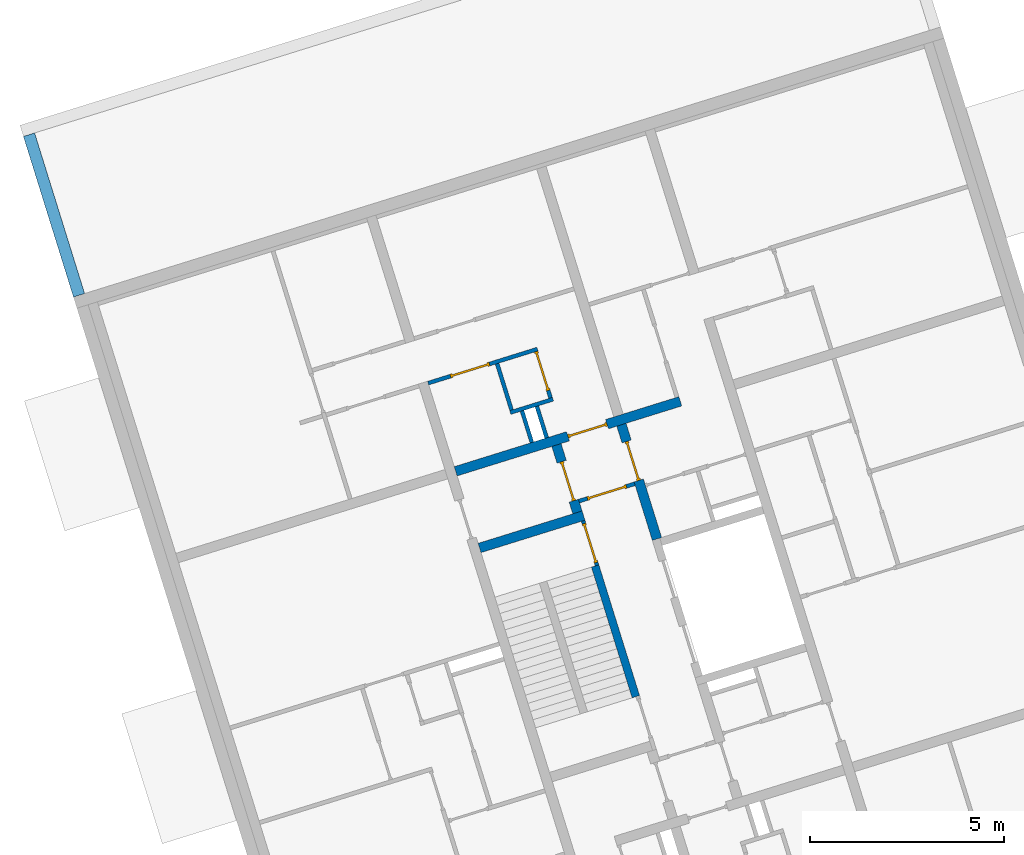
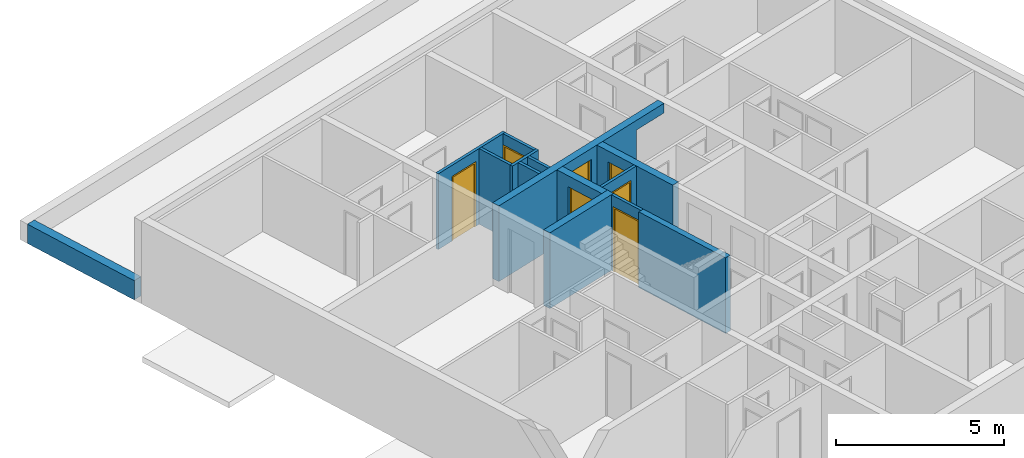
# One storey, part 5 of 9: 14 walls, 7 doors, 9 openings.
"""IFC4 building model written with IfcOpenShell, lengths in metres."""

from ifc_helpers import new_model, entity, si_unit, converted_unit, direction, frame, origin, place, context, subcontext, project, spatial, indexed_curve, outline, extrude, polygons, source, transform, mapped, material, constituent, constituent_set, type_object, type_shapes, element, fill, save


model = new_model("IFC4")

# Units and contexts
model_context = context("Model", 3, precision=1e-05, world=origin(), true_north=direction((6.12323399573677e-17, 1.0)))
body_context = subcontext(model_context, "Body", "Model", "MODEL_VIEW")
ifc_project = project(units=[si_unit("LENGTHUNIT", "METRE"), si_unit("AREAUNIT", "SQUARE_METRE"), converted_unit("PLANEANGLEUNIT", "DEGREE", entity("IfcPlaneAngleMeasure", 0.0174532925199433), si_unit("PLANEANGLEUNIT", "RADIAN"), dimensions=[0, 0, 0, 0, 0, 0, 0]), si_unit("VOLUMEUNIT", "CUBIC_METRE")], contexts=[model_context])

# Site, building, storey
site_placement = place(None, frame((13.1347999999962, 11.9886000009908, 0.0), z_axis=(0.0, 0.0, 1.0), x_axis=(0.954770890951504, 0.297342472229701, 0.0)))
site = spatial("IfcSite", under=ifc_project, at=site_placement, Name="Schiehaven", CompositionType="ELEMENT")
building_placement = place(site_placement, origin())
building = spatial("IfcBuilding", under=site, at=building_placement, Name="VORM huis", CompositionType="ELEMENT")
storey_placement = place(building_placement, frame((0.0, 0.0, 6.9)))
storey = spatial("IfcBuildingStorey", under=building, at=storey_placement, Name="02 tweede verdieping", CompositionType="ELEMENT", Elevation=6.9)

# Wall, openings, door
ifc_material_1 = material(Name="beton_gewapend_ihw", Category="Miscellaneous")
wall_type_1 = type_object("IfcWallType", Name="Basic Wall:28_WA_skelet_wand 250mm_gen", PredefinedType="STANDARD")
wall_1_placement = place(storey_placement, frame((72.3749999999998, 22.1999999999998, 0.0), z_axis=(0.0, 0.0, 1.0), x_axis=(-1.0, 0.0, 0.0)))
wall_1 = element("IfcWall", 1, at=wall_1_placement, inside=storey, type_object=wall_type_1, material=ifc_material_1, Name="Constructieve wand", ObjectType="Wand", PredefinedType="NOTDEFINED", context=body_context, shape_type="Tessellation", body=[
    polygons([(4.225, -0.124999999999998, 2.34999999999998), (4.225, -0.124999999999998, 1.08286712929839e-15), (7.25000000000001, -0.124999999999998, 1.08286712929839e-15), (7.25000000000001, -0.124999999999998, 2.75), (9.99819487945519e-15, -0.124999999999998, 2.75), (9.99819487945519e-15, -0.124999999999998, 2.4), (1.2, -0.124999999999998, 2.4), (1.2, -0.124999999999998, 1.08286712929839e-15), (3.175, -0.124999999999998, 1.08286712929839e-15), (3.175, -0.124999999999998, 2.34999999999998), (7.25000000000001, 0.125000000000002, 1.08286712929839e-15), (4.22500000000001, 0.125000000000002, 1.08286712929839e-15), (4.22500000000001, 0.125000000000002, 2.34999999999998), (3.175, 0.125000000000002, 2.34999999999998), (3.175, 0.125000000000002, 1.08286712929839e-15), (1.2, 0.125000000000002, 1.08286712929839e-15), (1.2, 0.125000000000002, 2.4), (1.32815610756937e-14, 0.125000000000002, 2.4), (1.32815610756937e-14, 0.125000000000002, 2.75), (7.25, 0.125000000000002, 2.75)], [[[1, 2, 3, 4, 5, 6, 7, 8, 9, 10]], [[11, 12, 13, 14, 15, 16, 17, 18, 19, 20]], [[9, 8, 16, 15]], [[5, 4, 20, 19]], [[5, 19, 18, 6]], [[15, 14, 10, 9]], [[13, 12, 2, 1]], [[14, 13, 1, 10]], [[7, 17, 16, 8]], [[17, 7, 6, 18]], [[4, 3, 11, 20]], [[3, 2, 12, 11]]], closed=True),
])
opening_1_placement = place(wall_1_placement, origin())
element("IfcOpeningElement", 2, at=opening_1_placement, cuts=wall_1, Name="Constructieve wand", PredefinedType="OPENING", context=body_context, shape_type="SweptSolid", body=[
    extrude(outline(indexed_curve([(-1.2, -0.600000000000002), (1.2, -0.600000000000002), (1.2, 0.600000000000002), (-1.2, 0.600000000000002), (-1.2, -0.600000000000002)], self_intersect=False)), frame((0.599999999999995, -0.124999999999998, 1.2), z_axis=(0.0, 1.0, 0.0), x_axis=(0.0, 0.0, -1.0)), (0.0, 0.0, 1.0), 0.250000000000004),
])
opening_2_placement = place(wall_1_placement, frame((3.175, -0.124999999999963, 0.0)))
opening_2 = element("IfcOpeningElement", 3, at=opening_2_placement, cuts=wall_1, Name="Woningtoegangsdeur", PredefinedType="OPENING", context=body_context, shape_type="SweptSolid", body=[
    extrude(outline(indexed_curve([(2.34999999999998, 2.2221558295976e-31), (2.34999999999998, 1.05), (0.0, 1.05), (0.0, 2.2221558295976e-31), (2.34999999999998, 2.2221558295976e-31)], self_intersect=False)), frame((0.0, 0.0, 0.0), z_axis=(0.0, 1.0, 0.0), x_axis=(0.0, 0.0, 1.0)), (0.0, 0.0, 1.0), 0.25),
])
ifc_material_2 = material(Name="PD_a_binnenwandopeningen", Category="Miscellaneous")
ifc_constituent_1 = constituent(ifc_material_2, Name="PD_a_binnenwandopeningen", Category="Miscellaneous")
ifc_material_3 = material(Name="metaal_aluminium_ntb", Category="Miscellaneous")
ifc_constituent_2 = constituent(ifc_material_3, Name="metaal_aluminium_ntb", Category="Miscellaneous")
ifc_constituent_set_1 = constituent_set(constituents=[ifc_constituent_1, ifc_constituent_2])
ifc_constituent_3 = constituent(ifc_material_2, Name="PD_a_binnenwandopeningen", Category="Miscellaneous")
ifc_constituent_4 = constituent(ifc_material_3, Name="Panel", Category="Miscellaneous")
ifc_constituent_set_2 = constituent_set(constituents=[ifc_constituent_3, ifc_constituent_4])
door_type_1 = type_object("IfcDoorType", Name="32_DO_binnendeur enkel:woningtoegangsdeur", OperationType="REVOLVING", PredefinedType="DOOR", material=ifc_constituent_set_2)
shared_shape_1 = source(origin(), body_context, "Body", "SweptSolid", [
    extrude(outline(indexed_curve([(0.475, -1.16249999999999), (0.525000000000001, -1.16249999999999), (0.525000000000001, 1.18749999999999), (-0.525000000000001, 1.18749999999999), (-0.525000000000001, -1.16249999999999), (-0.475, -1.16249999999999), (-0.475, 1.13749999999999), (0.475, 1.13749999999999), (0.475, -1.16249999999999)], self_intersect=False)), frame((0.525000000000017, 0.174999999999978, 1.16249999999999), z_axis=(0.0, -1.0, 0.0), x_axis=(1.0, 0.0, 0.0)), (0.0, 0.0, 1.0), 0.1),
    extrude(outline(indexed_curve([(-0.475, -0.025), (0.475, -0.025), (0.475, 0.025), (-0.475, 0.025), (-0.475, -0.025)], self_intersect=False)), frame((0.525000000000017, 0.12499999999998, 0.0)), (0.0, 0.0, 1.0), 2.29999999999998),
])
type_shapes(door_type_1, [shared_shape_1])
door_1_placement = place(opening_2_placement, origin())
door_1 = element("IfcDoor", 4, at=door_1_placement, inside=storey, type_object=door_type_1, material=ifc_constituent_set_1, Name="Woningtoegangsdeur", ObjectType="Deur", OperationType="REVOLVING", OverallHeight=2.34999999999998, OverallWidth=1.05, PredefinedType="DOOR", context=body_context, shape_type="MappedRepresentation", body=[
    mapped(shared_shape_1, transform((0.0, 0.0, 0.0), scale=1.0)),
])
fill(opening_2, door_1)

# Walls
ifc_material_4 = material(Name="ntb_ntb_ntb", Category="Miscellaneous")
wall_type_2 = type_object("IfcWallType", Name="Basic Wall: 300mm_gen", PredefinedType="STANDARD")
wall_2_placement = place(storey_placement, frame((57.2250000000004, 29.4000000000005, 0.0), z_axis=(0.0, 0.0, 1.0), x_axis=(0.0, 1.0, 0.0)))
element("IfcWall", 5, at=wall_2_placement, inside=storey, type_object=wall_type_2, material=ifc_material_4, Name="Gevelwand", ObjectType="Wand", PredefinedType="NOTDEFINED", context=body_context, shape_type="SweptSolid", body=[
    extrude(outline(indexed_curve([(4.32500000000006, 0.149999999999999), (1.85175273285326e-15, 0.150000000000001), (-1.85175273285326e-15, -0.150000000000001), (4.32500000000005, -0.150000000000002), (4.32500000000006, 0.149999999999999)], self_intersect=False)), origin(), (0.0, 0.0, 1.0), 0.700000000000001),
])
ifc_material_5 = material(Name="beton_gewapend_prefab-element", Category="Miscellaneous")
wall_type_3 = type_object("IfcWallType", Name="Basic Wall:28_WA_skelet_wand 200mm_gen", PredefinedType="STANDARD")
wall_3_placement = place(storey_placement, frame((67.8250000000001, 15.2899999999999, 0.0), z_axis=(0.0, 0.0, 1.0), x_axis=(0.0, 1.0, 0.0)))
element("IfcWall", 6, at=wall_3_placement, inside=storey, type_object=wall_type_3, material=ifc_material_5, Name="Constructieve wand", ObjectType="Wand", PredefinedType="NOTDEFINED", context=body_context, shape_type="SweptSolid", body=[
    extrude(outline(indexed_curve([(3.52, 0.100000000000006), (1.54310621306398e-16, 0.100000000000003), (-1.54310621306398e-16, -0.100000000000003), (3.52, -0.1), (3.52, 0.100000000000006)], self_intersect=False)), origin(), (0.0, 0.0, 1.0), 2.75),
])
wall_type_4 = type_object("IfcWallType", Name="Basic Wall:22_WA_afbouw_binnenwand 250mm_gen", PredefinedType="STANDARD")
wall_4_placement = place(storey_placement, frame((65.1249999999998, 20.1349999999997, 0.0)))
element("IfcWall", 7, at=wall_4_placement, inside=storey, type_object=wall_type_4, material=ifc_material_4, Name="Binnenwand", ObjectType="Wand", PredefinedType="NOTDEFINED", context=body_context, shape_type="SweptSolid", body=[
    extrude(outline(indexed_curve([(2.80000000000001, 0.124999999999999), (1.66486711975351e-15, 0.125000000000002), (-1.66486711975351e-15, -0.125000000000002), (2.80000000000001, -0.125000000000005), (2.80000000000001, 0.124999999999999)], self_intersect=False)), origin(), (0.0, 0.0, 1.0), 2.75),
])

# Wall, opening, door
wall_5_placement = place(storey_placement, frame((67.7999999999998, 20.2599999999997, 0.0), z_axis=(0.0, 0.0, 1.0), x_axis=(0.0, 1.0, 0.0)))
wall_5 = element("IfcWall", 8, at=wall_5_placement, inside=storey, type_object=wall_type_4, material=ifc_material_4, Name="Binnenwand", ObjectType="Wand", PredefinedType="NOTDEFINED", context=body_context, shape_type="Tessellation", body=[
    polygons([(4.33146851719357e-15, -0.125000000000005, 1.08286712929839e-15), (0.215000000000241, -0.125, 0.0), (0.31500000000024, -0.125000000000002, 1.08286712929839e-15), (0.31500000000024, -0.125000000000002, 2.34999999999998), (1.36500000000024, -0.124999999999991, 2.34999999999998), (1.36500000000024, -0.124999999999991, 1.08286712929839e-15), (1.81500000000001, -0.124999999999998, 1.08286712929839e-15), (1.81500000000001, -0.124999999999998, 2.75), (0.31500000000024, -0.125000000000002, 2.75), (0.215000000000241, -0.125, 2.75), (4.33146851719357e-15, -0.125000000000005, 2.75), (0.31500000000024, 0.125000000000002, 2.34999999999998), (0.31500000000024, 0.125000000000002, 1.08286712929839e-15), (8.66293703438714e-15, 0.125000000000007, 1.08286712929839e-15), (4.33146851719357e-15, 0.125000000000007, 2.75), (1.81500000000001, 0.124999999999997, 2.75), (1.81500000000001, 0.124999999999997, 1.08286712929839e-15), (1.36500000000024, 0.125000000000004, 1.08286712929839e-15), (1.36500000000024, 0.125000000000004, 2.34999999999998)], [[[1, 2, 3, 4, 5, 6, 7, 8, 9, 10, 11]], [[12, 13, 14, 15, 16, 17, 18, 19]], [[14, 13, 3, 2, 1]], [[8, 7, 17, 16]], [[11, 10, 9, 8, 16, 15]], [[6, 5, 19, 18]], [[4, 3, 13, 12]], [[5, 4, 12, 19]], [[1, 11, 15, 14]], [[18, 17, 7, 6]]], closed=True),
])
opening_3_placement = place(wall_5_placement, frame((1.36500000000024, 0.125000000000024, 0.0)))
opening_3 = element("IfcOpeningElement", 9, at=opening_3_placement, cuts=wall_5, Name="Woningtoegangsdeur", PredefinedType="OPENING", context=body_context, shape_type="SweptSolid", body=[
    extrude(outline(indexed_curve([(2.34999999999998, 0.0), (2.34999999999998, 1.05), (0.0, 1.05), (0.0, 0.0), (2.34999999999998, 0.0)], self_intersect=False)), frame((0.0, 0.0, 0.0), z_axis=(0.0, -1.0, 0.0), x_axis=(0.0, 0.0, 1.0)), (0.0, 0.0, 1.0), 0.25),
])
ifc_constituent_5 = constituent(ifc_material_2, Name="PD_a_binnenwandopeningen", Category="Miscellaneous")
ifc_constituent_6 = constituent(ifc_material_3, Name="metaal_aluminium_ntb", Category="Miscellaneous")
ifc_constituent_set_3 = constituent_set(constituents=[ifc_constituent_5, ifc_constituent_6])
ifc_constituent_7 = constituent(ifc_material_2, Name="PD_a_binnenwandopeningen", Category="Miscellaneous")
ifc_constituent_8 = constituent(ifc_material_3, Name="Panel", Category="Miscellaneous")
ifc_constituent_set_4 = constituent_set(constituents=[ifc_constituent_7, ifc_constituent_8])
door_type_2 = type_object("IfcDoorType", Name="32_DO_binnendeur enkel:woningtoegangsdeur", OperationType="REVOLVING", PredefinedType="DOOR", material=ifc_constituent_set_4)
shared_shape_2 = source(origin(), body_context, "Body", "SweptSolid", [
    extrude(outline(indexed_curve([(0.475, -1.16249999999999), (0.525000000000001, -1.16249999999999), (0.525000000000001, 1.18749999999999), (-0.525000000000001, 1.18749999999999), (-0.525000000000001, -1.16249999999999), (-0.475, -1.16249999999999), (-0.475, 1.13749999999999), (0.475, 1.13749999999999), (0.475, -1.16249999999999)], self_intersect=False)), frame((0.525000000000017, 0.174999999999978, 1.16249999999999), z_axis=(0.0, -1.0, 0.0), x_axis=(1.0, 0.0, 0.0)), (0.0, 0.0, 1.0), 0.1),
    extrude(outline(indexed_curve([(-0.475, -0.025), (0.475, -0.025), (0.475, 0.025), (-0.475, 0.025), (-0.475, -0.025)], self_intersect=False)), frame((0.525000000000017, 0.12499999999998, 0.0)), (0.0, 0.0, 1.0), 2.29999999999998),
])
type_shapes(door_type_2, [shared_shape_2])
door_2_placement = place(opening_3_placement, frame((0.0, 0.0, 0.0), z_axis=(0.0, 0.0, 1.0), x_axis=(-1.0, 0.0, 0.0)))
door_2 = element("IfcDoor", 10, at=door_2_placement, inside=storey, type_object=door_type_2, material=ifc_constituent_set_3, Name="Woningtoegangsdeur", ObjectType="Deur", OperationType="REVOLVING", OverallHeight=2.34999999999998, OverallWidth=1.05, PredefinedType="DOOR", context=body_context, shape_type="MappedRepresentation", body=[
    mapped(shared_shape_2, transform((0.0, 0.0, 0.0), scale=1.0)),
])
fill(opening_3, door_2)

wall_6_placement = place(storey_placement, frame((69.5499999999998, 19.0, 0.0), z_axis=(0.0, 0.0, 1.0), x_axis=(0.0, 1.0, 0.0)))
wall_6 = element("IfcWall", 11, at=wall_6_placement, inside=storey, type_object=wall_type_4, material=ifc_material_4, Name="Binnenwand", ObjectType="Wand", PredefinedType="NOTDEFINED", context=body_context, shape_type="Tessellation", body=[
    polygons([(2.62500000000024, -0.12500000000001, 2.34999999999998), (2.62500000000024, -0.12500000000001, 1.08286712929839e-15), (3.075, -0.125000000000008, 1.08286712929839e-15), (3.075, -0.125000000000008, 2.75), (0.0, -0.125000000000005, 2.75), (0.0, -0.125000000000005, 1.08286712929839e-15), (1.57500000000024, -0.125000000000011, 1.08286712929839e-15), (1.57500000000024, -0.125000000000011, 2.34999999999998), (3.075, 0.124999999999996, 1.08286712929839e-15), (2.62500000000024, 0.125000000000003, 1.08286712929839e-15), (2.62500000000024, 0.125000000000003, 2.34999999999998), (1.57500000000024, 0.124999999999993, 2.34999999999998), (1.57500000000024, 0.124999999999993, 1.08286712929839e-15), (1.4750000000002, 0.124999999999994, 0.0), (2.16573425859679e-15, 0.12499999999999, 1.08286712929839e-15), (2.16573425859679e-15, 0.12499999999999, 2.75), (1.4750000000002, 0.124999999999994, 2.75), (1.5750000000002, 0.124999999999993, 2.75), (3.075, 0.124999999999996, 2.75)], [[[1, 2, 3, 4, 5, 6, 7, 8]], [[9, 10, 11, 12, 13, 14, 15, 16, 17, 18, 19]], [[7, 6, 15, 14, 13]], [[4, 3, 9, 19]], [[5, 4, 19, 18, 17, 16]], [[6, 5, 16, 15]], [[13, 12, 8, 7]], [[11, 10, 2, 1]], [[12, 11, 1, 8]], [[3, 2, 10, 9]]], closed=True),
])
opening_4_placement = place(wall_6_placement, frame((1.57499999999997, -0.124999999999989, 0.0)))
opening_4 = element("IfcOpeningElement", 12, at=opening_4_placement, cuts=wall_6, Name="Woningtoegangsdeur", PredefinedType="OPENING", context=body_context, shape_type="SweptSolid", body=[
    extrude(outline(indexed_curve([(2.34999999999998, 0.0), (2.34999999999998, 1.05), (0.0, 1.05), (0.0, 0.0), (2.34999999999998, 0.0)], self_intersect=False)), frame((0.0, 0.0, 0.0), z_axis=(0.0, 1.0, 0.0), x_axis=(0.0, 0.0, 1.0)), (0.0, 0.0, 1.0), 0.25),
])
ifc_constituent_9 = constituent(ifc_material_2, Name="PD_a_binnenwandopeningen", Category="Miscellaneous")
ifc_constituent_10 = constituent(ifc_material_3, Name="metaal_aluminium_ntb", Category="Miscellaneous")
ifc_constituent_set_5 = constituent_set(constituents=[ifc_constituent_9, ifc_constituent_10])
door_3_placement = place(opening_4_placement, origin())
door_3 = element("IfcDoor", 13, at=door_3_placement, inside=storey, type_object=door_type_2, material=ifc_constituent_set_5, Name="Woningtoegangsdeur", ObjectType="Deur", OperationType="REVOLVING", OverallHeight=2.34999999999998, OverallWidth=1.05, PredefinedType="DOOR", context=body_context, shape_type="MappedRepresentation", body=[
    mapped(shared_shape_2, transform((0.0, 0.0, 0.0), scale=1.0)),
])
fill(opening_4, door_3)

wall_type_5 = type_object("IfcWallType", Name="Basic Wall:22_WA_afbouw_binnenwand 100mm_gen", PredefinedType="STANDARD")
wall_7_placement = place(storey_placement, frame((67.8750000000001, 20.0099999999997, 0.0), z_axis=(0.0, 0.0, 1.0), x_axis=(0.0, -1.0, 0.0)))
wall_7 = element("IfcWall", 14, at=wall_7_placement, inside=storey, type_object=wall_type_5, material=ifc_material_4, Name="Binnenwand", ObjectType="Wand", PredefinedType="NOTDEFINED", context=body_context, shape_type="Tessellation", body=[
    polygons([(1.19999999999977, -0.0500000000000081, 1.08286712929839e-15), (1.19999999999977, -0.0500000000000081, 2.75), (0.0, -0.0500000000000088, 2.75), (0.0, -0.0500000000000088, 1.08286712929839e-15), (0.0749999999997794, -0.0500000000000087, 1.08286712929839e-15), (0.0749999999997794, -0.0500000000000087, 2.34999999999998), (1.12499999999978, -0.0500000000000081, 2.34999999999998), (1.12499999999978, -0.0500000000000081, 1.08286712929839e-15), (1.19999999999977, 0.0499999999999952, 2.75), (1.19999999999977, 0.0499999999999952, 1.08286712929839e-15), (1.12499999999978, 0.0499999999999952, 1.08286712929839e-15), (1.12499999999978, 0.0499999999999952, 2.34999999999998), (0.0749999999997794, 0.0499999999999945, 2.34999999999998), (0.0749999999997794, 0.0499999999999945, 1.08286712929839e-15), (0.0, 0.0499999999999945, 1.08286712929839e-15), (0.0, 0.0499999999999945, 2.75)], [[[1, 2, 3, 4, 5, 6, 7, 8]], [[9, 10, 11, 12, 13, 14, 15, 16]], [[4, 15, 14, 5]], [[2, 1, 10, 9]], [[3, 2, 9, 16]], [[13, 6, 5, 14]], [[6, 13, 12, 7]], [[7, 12, 11, 8]], [[4, 3, 16, 15]], [[10, 1, 8, 11]]], closed=True),
])
opening_5_placement = place(wall_7_placement, frame((1.12499999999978, 0.0499999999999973, 0.0)))
opening_5 = element("IfcOpeningElement", 15, at=opening_5_placement, cuts=wall_7, Name="Vluchtdeur", PredefinedType="OPENING", context=body_context, shape_type="SweptSolid", body=[
    extrude(outline(indexed_curve([(2.34999999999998, 0.0), (2.34999999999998, 1.05), (0.0, 1.05), (0.0, 0.0), (2.34999999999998, 0.0)], self_intersect=False)), frame((0.0, 0.0, 0.0), z_axis=(0.0, -1.0, 0.0), x_axis=(0.0, 0.0, 1.0)), (0.0, 0.0, 1.0), 0.1),
])
ifc_constituent_11 = constituent(ifc_material_2, Name="PD_a_binnenwandopeningen", Category="Miscellaneous")
ifc_constituent_12 = constituent(ifc_material_3, Name="metaal_aluminium_ntb", Category="Miscellaneous")
ifc_constituent_set_6 = constituent_set(constituents=[ifc_constituent_11, ifc_constituent_12])
ifc_constituent_13 = constituent(ifc_material_2, Name="PD_a_binnenwandopeningen", Category="Miscellaneous")
ifc_constituent_14 = constituent(ifc_material_3, Name="Panel", Category="Miscellaneous")
ifc_constituent_set_7 = constituent_set(constituents=[ifc_constituent_13, ifc_constituent_14])
door_type_3 = type_object("IfcDoorType", Name="32_DO_binnendeur enkel:binnendeur zelfsluitend 30min", OperationType="NOTDEFINED", PredefinedType="DOOR", material=ifc_constituent_set_7)
shared_shape_3 = source(origin(), body_context, "Body", "SweptSolid", [
    extrude(outline(indexed_curve([(0.475, -1.16249999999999), (0.525, -1.16249999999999), (0.525, 1.18749999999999), (-0.525, 1.18749999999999), (-0.525, -1.16249999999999), (-0.475, -1.16249999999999), (-0.475, 1.13749999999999), (0.475, 1.13749999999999), (0.475, -1.16249999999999)], self_intersect=False)), frame((0.525000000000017, 0.100000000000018, 1.16249999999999), z_axis=(0.0, -1.0, 0.0), x_axis=(1.0, 0.0, 0.0)), (0.0, 0.0, 1.0), 0.1),
    extrude(outline(indexed_curve([(-0.475, -0.025), (0.475, -0.025), (0.475, 0.025), (-0.475, 0.025), (-0.475, -0.025)], self_intersect=False)), frame((0.525000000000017, 0.0499999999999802, 0.0)), (0.0, 0.0, 1.0), 2.29999999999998),
])
type_shapes(door_type_3, [shared_shape_3])
door_4_placement = place(opening_5_placement, frame((0.0, 0.0, 0.0), z_axis=(0.0, 0.0, 1.0), x_axis=(-1.0, 0.0, 0.0)))
door_4 = element("IfcDoor", 16, at=door_4_placement, inside=storey, type_object=door_type_3, material=ifc_constituent_set_6, Name="Vluchtdeur", ObjectType="Deur", OperationType="NOTDEFINED", OverallHeight=2.34999999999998, OverallWidth=1.05, PredefinedType="DOOR", context=body_context, shape_type="MappedRepresentation", body=[
    mapped(shared_shape_3, transform((0.0, 0.0, 0.0), scale=1.0)),
])
fill(opening_5, door_4)

wall_8_placement = place(storey_placement, frame((67.9249999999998, 20.5249999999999, 0.0)))
wall_8 = element("IfcWall", 17, at=wall_8_placement, inside=storey, type_object=wall_type_5, material=ifc_material_4, Name="Binnenwand", ObjectType="Wand", PredefinedType="NOTDEFINED", context=body_context, shape_type="Tessellation", body=[
    polygons([(1.50000000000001, -0.0500000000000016, 2.75), (1.03359612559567e-15, -0.0499999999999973, 2.75), (1.03359612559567e-15, -0.0499999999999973, 1.08286712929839e-15), (0.225000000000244, -0.0500000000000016, 1.08286712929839e-15), (0.225000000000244, -0.0500000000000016, 2.34999999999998), (1.27500000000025, -0.0500000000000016, 2.34999999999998), (1.27500000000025, -0.0500000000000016, 1.08286712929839e-15), (1.50000000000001, -0.0500000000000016, 1.08286712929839e-15), (6.1554594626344e-16, 0.0500000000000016, 2.75), (1.50000000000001, 0.0499999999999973, 2.75), (1.50000000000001, 0.0499999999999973, 2.34999999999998), (1.50000000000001, 0.0499999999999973, 1.08286712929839e-15), (1.27500000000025, 0.0499999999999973, 1.08286712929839e-15), (1.27500000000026, 0.0499999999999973, 2.34999999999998), (0.225000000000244, 0.0499999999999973, 2.34999999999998), (0.225000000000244, 0.0499999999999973, 1.08286712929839e-15), (6.1554594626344e-16, 0.0500000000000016, 1.08286712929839e-15), (6.1554594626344e-16, 0.0500000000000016, 2.34999999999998)], [[[1, 2, 3, 4, 5, 6, 7, 8]], [[9, 10, 11, 12, 13, 14, 15, 16, 17, 18]], [[3, 17, 16, 4]], [[2, 1, 10, 9]], [[15, 5, 4, 16]], [[5, 15, 14, 6]], [[6, 14, 13, 7]], [[1, 8, 12, 11, 10]], [[3, 2, 9, 18, 17]], [[12, 8, 7, 13]]], closed=True),
])
opening_6_placement = place(wall_8_placement, frame((1.27500000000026, 0.0499999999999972, 0.0)))
opening_6 = element("IfcOpeningElement", 18, at=opening_6_placement, cuts=wall_8, Name="Vluchtdeur", PredefinedType="OPENING", context=body_context, shape_type="SweptSolid", body=[
    extrude(outline(indexed_curve([(2.34999999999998, -1.78601455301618e-29), (2.34999999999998, 1.05), (0.0, 1.05), (0.0, -1.78601455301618e-29), (2.34999999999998, -1.78601455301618e-29)], self_intersect=False)), frame((0.0, 0.0, 0.0), z_axis=(0.0, -1.0, 0.0), x_axis=(0.0, 0.0, 1.0)), (0.0, 0.0, 1.0), 0.1),
])
ifc_constituent_15 = constituent(ifc_material_2, Name="PD_a_binnenwandopeningen", Category="Miscellaneous")
ifc_constituent_16 = constituent(ifc_material_3, Name="metaal_aluminium_ntb", Category="Miscellaneous")
ifc_constituent_set_8 = constituent_set(constituents=[ifc_constituent_15, ifc_constituent_16])
door_5_placement = place(opening_6_placement, frame((0.0, 0.0, 0.0), z_axis=(0.0, 0.0, 1.0), x_axis=(-1.0, 0.0, 0.0)))
door_5 = element("IfcDoor", 19, at=door_5_placement, inside=storey, type_object=door_type_3, material=ifc_constituent_set_8, Name="Vluchtdeur", ObjectType="Deur", OperationType="NOTDEFINED", OverallHeight=2.34999999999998, OverallWidth=1.05, PredefinedType="DOOR", context=body_context, shape_type="MappedRepresentation", body=[
    mapped(shared_shape_3, transform((0.0, 0.0, 0.0), scale=1.0)),
])
fill(opening_6, door_5)

# Wall, openings, door
wall_9_placement = place(storey_placement, frame((65.1249999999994, 24.5750000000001, 0.0)))
wall_9 = element("IfcWall", 20, at=wall_9_placement, inside=storey, type_object=wall_type_5, material=ifc_material_4, Name="Binnenwand", ObjectType="Wand", PredefinedType="NOTDEFINED", context=body_context, shape_type="Tessellation", body=[
    polygons([(1.65, -0.0499999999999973, 2.34999999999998), (1.65, -0.0499999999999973, 1.08286712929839e-15), (1.79100000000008, -0.049999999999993, 0.0), (1.89100000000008, -0.0499999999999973, 0.0), (2.94100000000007, -0.0499999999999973, 1.08286712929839e-15), (2.94100000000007, -0.0499999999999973, 2.34999999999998), (2.94100000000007, -0.0499999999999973, 2.75), (2.84100000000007, -0.0499999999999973, 2.75), (1.89100000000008, -0.0499999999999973, 2.75), (1.79100000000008, -0.049999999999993, 2.75), (-1.42600901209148e-15, -0.0499999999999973, 2.75), (-1.42600901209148e-15, -0.0499999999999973, 1.08286712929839e-15), (0.600000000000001, -0.049999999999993, 1.08286712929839e-15), (0.600000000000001, -0.049999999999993, 2.34999999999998), (2.94100000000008, 0.0500000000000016, 1.08286712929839e-15), (1.65000000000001, 0.0500000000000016, 1.08286712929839e-15), (1.65000000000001, 0.0500000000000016, 2.34999999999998), (0.600000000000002, 0.050000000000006, 2.34999999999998), (0.600000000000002, 0.050000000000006, 1.08286712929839e-15), (-3.36814153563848e-16, 0.0500000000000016, 1.08286712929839e-15), (-3.36814153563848e-16, 0.0500000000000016, 2.75), (2.94100000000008, 0.0500000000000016, 2.75)], [[[1, 2, 3, 4, 5, 6, 7, 8, 9, 10, 11, 12, 13, 14]], [[15, 16, 17, 18, 19, 20, 21, 22]], [[13, 12, 20, 19]], [[11, 10, 9, 8, 7, 22, 21]], [[12, 11, 21, 20]], [[19, 18, 14, 13]], [[17, 16, 2, 1]], [[18, 17, 1, 14]], [[7, 6, 5, 15, 22]], [[5, 4, 3, 2, 16, 15]]], closed=True),
])
opening_7_placement = place(wall_9_placement, origin())
element("IfcOpeningElement", 21, at=opening_7_placement, cuts=wall_9, Name="Binnendeur", PredefinedType="OPENING", context=body_context, shape_type="SweptSolid", body=[
    extrude(outline(indexed_curve([(-0.0499999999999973, -1.17499999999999), (0.050000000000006, -1.17499999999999), (0.050000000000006, 1.17499999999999), (-0.0499999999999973, 1.17499999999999), (-0.0499999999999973, -1.17499999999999)], self_intersect=False)), frame((2.89100000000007, -1.1, 1.17499999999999), z_axis=(0.0, 1.0, 0.0), x_axis=(1.0, 0.0, 0.0)), (0.0, 0.0, 1.0), 1.05),
])
opening_8_placement = place(wall_9_placement, frame((0.600000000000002, -0.0499999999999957, 0.0)))
opening_8 = element("IfcOpeningElement", 22, at=opening_8_placement, cuts=wall_9, Name="Binnendeur", PredefinedType="OPENING", context=body_context, shape_type="SweptSolid", body=[
    extrude(outline(indexed_curve([(2.34999999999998, 3.02234910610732e-29), (2.34999999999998, 1.05), (0.0, 1.05), (0.0, 3.02234910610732e-29), (2.34999999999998, 3.02234910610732e-29)], self_intersect=False)), frame((0.0, 0.0, 0.0), z_axis=(0.0, 1.0, 0.0), x_axis=(0.0, 0.0, 1.0)), (0.0, 0.0, 1.0), 0.1),
])
ifc_constituent_17 = constituent(ifc_material_2, Name="PD_a_binnenwandopeningen", Category="Miscellaneous")
ifc_constituent_18 = constituent(ifc_material_3, Name="metaal_aluminium_ntb", Category="Miscellaneous")
ifc_constituent_set_9 = constituent_set(constituents=[ifc_constituent_17, ifc_constituent_18])
ifc_constituent_19 = constituent(ifc_material_2, Name="PD_a_binnenwandopeningen", Category="Miscellaneous")
ifc_constituent_20 = constituent(ifc_material_3, Name="Panel", Category="Miscellaneous")
ifc_constituent_set_10 = constituent_set(constituents=[ifc_constituent_19, ifc_constituent_20])
door_type_4 = type_object("IfcDoorType", Name="32_DO_binnendeur enkel:binnendeur", OperationType="REVOLVING", PredefinedType="DOOR", material=ifc_constituent_set_10)
shared_shape_4 = source(origin(), body_context, "Body", "SweptSolid", [
    extrude(outline(indexed_curve([(0.475, -1.16249999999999), (0.525, -1.16249999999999), (0.525, 1.18749999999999), (-0.525, 1.18749999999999), (-0.525, -1.16249999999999), (-0.475, -1.16249999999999), (-0.475, 1.13749999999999), (0.475, 1.13749999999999), (0.475, -1.16249999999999)], self_intersect=False)), frame((0.525000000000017, 0.100000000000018, 1.16249999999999), z_axis=(0.0, -1.0, 0.0), x_axis=(1.0, 0.0, 0.0)), (0.0, 0.0, 1.0), 0.1),
    extrude(outline(indexed_curve([(-0.475, -0.025), (0.475, -0.025), (0.475, 0.025), (-0.475, 0.025), (-0.475, -0.025)], self_intersect=False)), frame((0.525000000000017, 0.0499999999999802, 0.0)), (0.0, 0.0, 1.0), 2.29999999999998),
])
type_shapes(door_type_4, [shared_shape_4])
door_6_placement = place(opening_8_placement, origin())
door_6 = element("IfcDoor", 23, at=door_6_placement, inside=storey, type_object=door_type_4, material=ifc_constituent_set_9, Name="Binnendeur", ObjectType="Deur", OperationType="REVOLVING", OverallHeight=2.34999999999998, OverallWidth=1.05, PredefinedType="DOOR", context=body_context, shape_type="MappedRepresentation", body=[
    mapped(shared_shape_4, transform((0.0, 0.0, 0.0), scale=1.0)),
])
fill(opening_8, door_6)

# Wall, opening, door
wall_10_placement = place(storey_placement, frame((68.0159999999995, 24.5250000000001, 0.0), z_axis=(0.0, 0.0, 1.0), x_axis=(0.0, -1.0, 0.0)))
wall_10 = element("IfcWall", 24, at=wall_10_placement, inside=storey, type_object=wall_type_5, material=ifc_material_4, Name="Binnenwand", ObjectType="Wand", PredefinedType="NOTDEFINED", context=body_context, shape_type="Tessellation", body=[
    polygons([(1.24999999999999, -0.0500000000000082, 2.75), (-4.33146851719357e-15, -0.0500000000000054, 2.75), (-4.33146851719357e-15, -0.0500000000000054, 2.34999999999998), (1.05, -0.0500000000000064, 2.34999999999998), (1.05, -0.0500000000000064, 1.08286712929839e-15), (1.24999999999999, -0.0500000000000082, 1.08286712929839e-15), (0.0, 0.0499999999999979, 2.75), (1.24999999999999, 0.049999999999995, 2.75), (1.24999999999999, 0.049999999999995, 1.08286712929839e-15), (1.05, 0.0499999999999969, 1.08286712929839e-15), (1.05, 0.0499999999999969, 2.34999999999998), (0.0, 0.0499999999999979, 2.34999999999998)], [[[1, 2, 3, 4, 5, 6]], [[7, 8, 9, 10, 11, 12]], [[9, 6, 5, 10]], [[2, 1, 8, 7]], [[4, 11, 10, 5]], [[11, 4, 3, 12]], [[1, 6, 9, 8]], [[2, 7, 12, 3]]], closed=True),
])
opening_9_placement = place(wall_10_placement, frame((0.0, -0.050000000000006, 0.0)))
opening_9 = element("IfcOpeningElement", 25, at=opening_9_placement, cuts=wall_10, Name="Binnendeur", PredefinedType="OPENING", context=body_context, shape_type="SweptSolid", body=[
    extrude(outline(indexed_curve([(2.34999999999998, 0.0), (2.34999999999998, 1.05), (0.0, 1.05), (0.0, 0.0), (2.34999999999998, 0.0)], self_intersect=False)), frame((0.0, 0.0, 0.0), z_axis=(0.0, 1.0, 0.0), x_axis=(0.0, 0.0, 1.0)), (0.0, 0.0, 1.0), 0.1),
])
ifc_constituent_21 = constituent(ifc_material_2, Name="PD_a_binnenwandopeningen", Category="Miscellaneous")
ifc_constituent_22 = constituent(ifc_material_3, Name="metaal_aluminium_ntb", Category="Miscellaneous")
ifc_constituent_set_11 = constituent_set(constituents=[ifc_constituent_21, ifc_constituent_22])
door_7_placement = place(opening_9_placement, origin())
door_7 = element("IfcDoor", 26, at=door_7_placement, inside=storey, type_object=door_type_4, material=ifc_constituent_set_11, Name="Binnendeur", ObjectType="Deur", OperationType="REVOLVING", OverallHeight=2.34999999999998, OverallWidth=1.05, PredefinedType="DOOR", context=body_context, shape_type="MappedRepresentation", body=[
    mapped(shared_shape_4, transform((0.0, 0.0, 0.0), scale=1.0)),
])
fill(opening_9, door_7)

# Walls
wall_11_placement = place(storey_placement, frame((66.9159999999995, 23.2250000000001, 0.0)))
element("IfcWall", 27, at=wall_11_placement, inside=storey, type_object=wall_type_5, material=ifc_material_4, Name="Binnenwand", ObjectType="Wand", PredefinedType="NOTDEFINED", context=body_context, shape_type="SweptSolid", body=[
    extrude(outline(indexed_curve([(1.15, 0.0500000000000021), (5.44597429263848e-16, 0.0500000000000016), (-5.44597429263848e-16, -0.0500000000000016), (1.15, -0.0500000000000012), (1.15, 0.0500000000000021)], self_intersect=False)), origin(), (0.0, 0.0, 1.0), 2.75),
])
wall_12_placement = place(storey_placement, frame((66.9659999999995, 23.2750000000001, 0.0), z_axis=(0.0, 0.0, 1.0), x_axis=(0.0, 1.0, 0.0)))
element("IfcWall", 28, at=wall_12_placement, inside=storey, type_object=wall_type_5, material=ifc_material_4, Name="Binnenwand", ObjectType="Wand", PredefinedType="NOTDEFINED", context=body_context, shape_type="SweptSolid", body=[
    extrude(outline(indexed_curve([(1.25, 0.0499999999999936), (4.93482904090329e-16, 0.0499999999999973), (-4.93482904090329e-16, -0.0499999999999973), (1.25, -0.050000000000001), (1.25, 0.0499999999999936)], self_intersect=False)), origin(), (0.0, 0.0, 1.0), 2.75),
])
wall_13_placement = place(storey_placement, frame((67.6159999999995, 22.3250000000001, 0.0), z_axis=(0.0, 0.0, 1.0), x_axis=(0.0, 1.0, 0.0)))
element("IfcWall", 29, at=wall_13_placement, inside=storey, type_object=wall_type_5, material=ifc_material_4, Name="Binnenwand", ObjectType="Wand", PredefinedType="NOTDEFINED", context=body_context, shape_type="SweptSolid", body=[
    extrude(outline(indexed_curve([(0.85000000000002, 0.0499999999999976), (4.93482904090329e-16, 0.0499999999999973), (-4.93482904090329e-16, -0.0499999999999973), (0.850000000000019, -0.049999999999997), (0.85000000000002, 0.0499999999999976)], self_intersect=False)), origin(), (0.0, 0.0, 1.0), 2.75),
])
wall_14_placement = place(storey_placement, frame((67.2159999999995, 22.3250000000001, 0.0), z_axis=(0.0, 0.0, 1.0), x_axis=(0.0, 1.0, 0.0)))
element("IfcWall", 30, at=wall_14_placement, inside=storey, type_object=wall_type_5, material=ifc_material_4, Name="Binnenwand", ObjectType="Wand", PredefinedType="NOTDEFINED", context=body_context, shape_type="SweptSolid", body=[
    extrude(outline(indexed_curve([(0.850000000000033, 0.0499999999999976), (4.93482904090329e-16, 0.0499999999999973), (-4.93482904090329e-16, -0.0499999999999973), (0.850000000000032, -0.049999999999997), (0.850000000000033, 0.0499999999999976)], self_intersect=False)), origin(), (0.0, 0.0, 1.0), 2.75),
])

save(model, "model.ifc")
